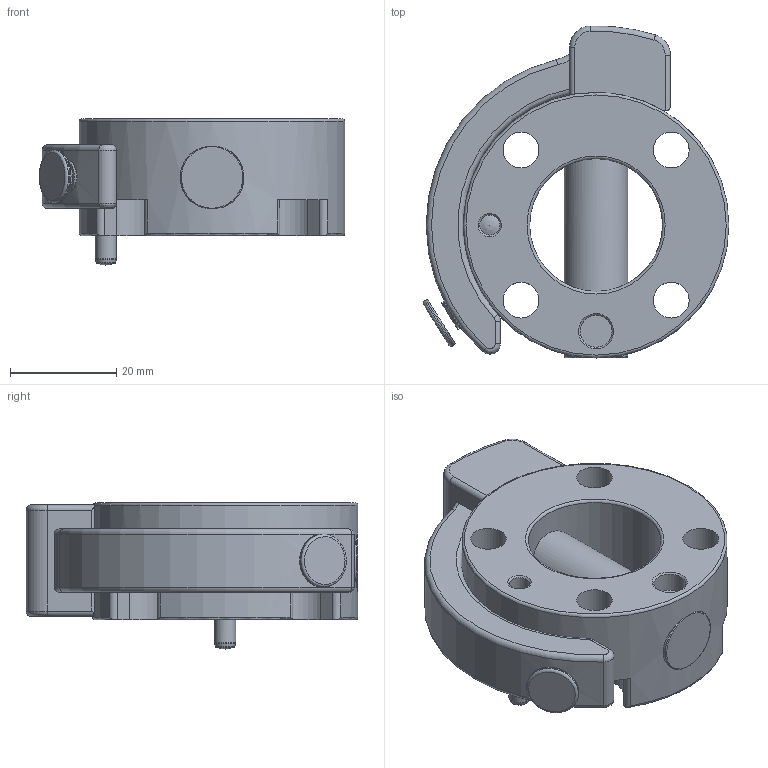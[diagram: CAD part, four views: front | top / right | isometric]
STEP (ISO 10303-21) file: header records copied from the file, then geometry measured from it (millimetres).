
FILE_DESCRIPTION(/* description */ (''),/* implementation_level */ '2;1');
FILE_NAME(/* name */ '\\DC01\Daten\CAD\Standard\Daten\3D-Datenbank\Webseite 2020\SHW\SHW050\G-SHW050-2O LT.stp',/* time_stamp */ '2020-06-17T14:40:57+02:00',/* author */ ('vbednarz'),/* organization */ (''),/* preprocessor_version */ 'ST-DEVELOPER v17',/* originating_system */ 'Autodesk Inventor 2018',/* authorisation */ '');
FILE_SCHEMA (('AUTOMOTIVE_DESIGN { 1 0 10303 214 3 1 1 }'));
Length unit declared in the file: millimetre
Products named in the file (1): Bauteil50
Bounding box: 57.57 x 62.48 x 27.5 mm (x, y, z)
Volume: 40513.6 mm3; surface area: 13935.8 mm2
Topology: 1 solids, 3 shells, 125 faces, 341 edges, 225 vertices
Faces by surface type: cylinder 53, plane 28, torus 24, cone 13, bspline 5, sphere 2
Full cylindrical faces by diameter (mm): 2.5 x2, 3.5 x1, 3.8 x1, 4 x2, 6 x1, 6.75 x4, 10 x1, 12 x1, 25 x1
Entity records: 4960 total; most frequent: CARTESIAN_POINT 1585, DIRECTION 724, ORIENTED_EDGE 672, EDGE_CURVE 336, AXIS2_PLACEMENT_3D 310, VERTEX_POINT 225, CIRCLE 187, EDGE_LOOP 145
